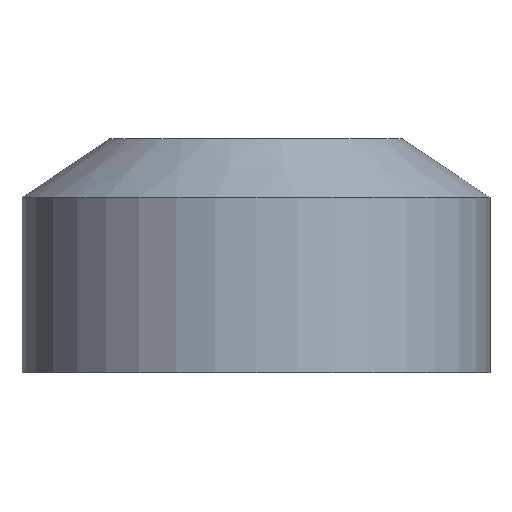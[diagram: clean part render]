
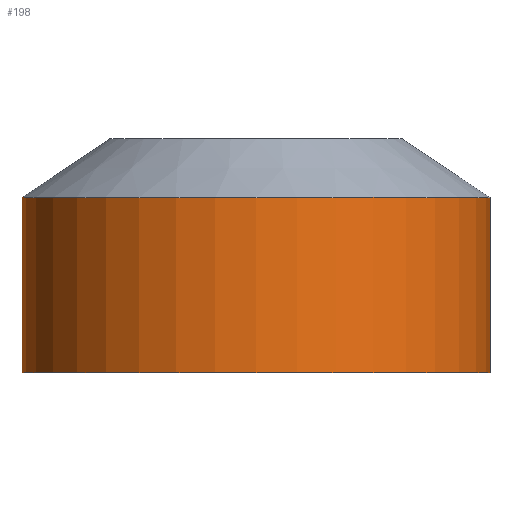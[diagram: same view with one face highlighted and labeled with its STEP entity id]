
A CAD part, front view. The second image highlights one B-rep face of the part: STEP entity #198.
In plain terms, the highlighted cylindrical face has radius 8 mm (diameter 16 mm), a partial arc.
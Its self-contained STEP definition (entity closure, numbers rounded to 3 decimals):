
#130=CARTESIAN_POINT('',(-8.0,0.,6.0));
#131=VERTEX_POINT('',#130);
#140=CARTESIAN_POINT('',(8.0,0.,6.));
#141=VERTEX_POINT('',#140);
#142=CARTESIAN_POINT('',(0.0,0.,6.0));
#143=DIRECTION('',(0.0,0.0,1.0));
#144=DIRECTION('',(-1.0,0.0,0.0));
#145=AXIS2_PLACEMENT_3D('',#142,#143,#144);
#146=CIRCLE('',#145,8.0);
#147=EDGE_CURVE('',#131,#141,#146,.T.);
#167=CARTESIAN_POINT('',(0.,0.,3.0));
#168=DIRECTION('',(0.,0.,1.0));
#169=DIRECTION('',(-1.0,0.0,0.0));
#170=AXIS2_PLACEMENT_3D('',#167,#168,#169);
#171=CYLINDRICAL_SURFACE('',#170,8.0);
#172=CARTESIAN_POINT('',(-8.0,0.0,0.));
#173=VERTEX_POINT('',#172);
#174=CARTESIAN_POINT('',(-8.0,0.0,0.));
#175=DIRECTION('',(0.0,0.0,1.0));
#176=VECTOR('',#175,6.);
#177=LINE('',#174,#176);
#178=EDGE_CURVE('',#173,#131,#177,.T.);
#179=ORIENTED_EDGE('',*,*,#178,.F.);
#180=CARTESIAN_POINT('',(8.0,0.,0.));
#181=VERTEX_POINT('',#180);
#182=CARTESIAN_POINT('',(0.,0.0,0.0));
#183=DIRECTION('',(0.0,0.0,1.0));
#184=DIRECTION('',(-1.0,0.0,0.0));
#185=AXIS2_PLACEMENT_3D('',#182,#183,#184);
#186=CIRCLE('',#185,8.0);
#187=EDGE_CURVE('',#173,#181,#186,.T.);
#188=ORIENTED_EDGE('',*,*,#187,.T.);
#189=CARTESIAN_POINT('',(8.0,0.,6.));
#190=DIRECTION('',(0.0,0.0,-1.0));
#191=VECTOR('',#190,6.0);
#192=LINE('',#189,#191);
#193=EDGE_CURVE('',#141,#181,#192,.T.);
#194=ORIENTED_EDGE('',*,*,#193,.F.);
#195=ORIENTED_EDGE('',*,*,#147,.F.);
#196=EDGE_LOOP('',(#179,#188,#194,#195));
#197=FACE_OUTER_BOUND('',#196,.T.);
#198=ADVANCED_FACE('',(#197),#171,.T.);
